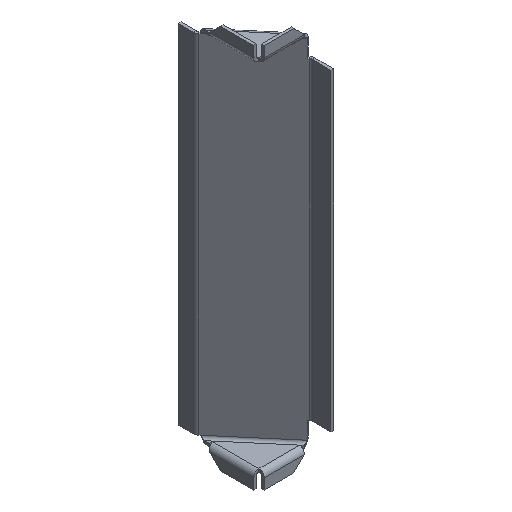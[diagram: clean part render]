
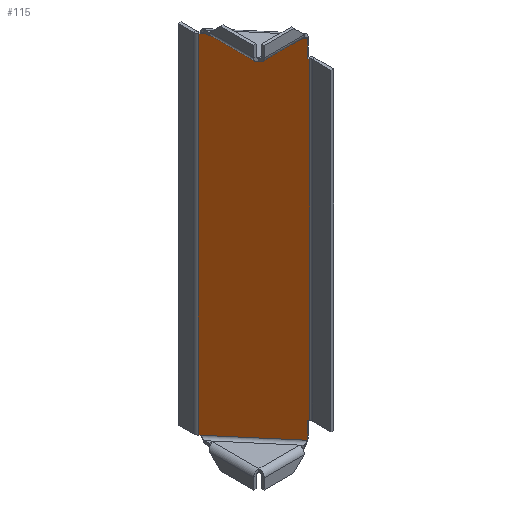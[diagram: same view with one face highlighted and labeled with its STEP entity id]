
A CAD part, isometric view. The second image highlights one B-rep face of the part: STEP entity #115.
In plain terms, the highlighted planar face has unit normal (-0.761, -0.648, 0).
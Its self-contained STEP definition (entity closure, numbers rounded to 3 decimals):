
#23 = EDGE_CURVE ( 'NONE', #2062, #2063, #2485, .T. ) ;
#28 = EDGE_CURVE ( 'NONE', #2066, #2065, #2487, .T. ) ;
#36 = EDGE_CURVE ( 'NONE', #2051, #2064, #2494, .T. ) ;
#41 = EDGE_CURVE ( 'NONE', #2063, #2069, #2498, .T. ) ;
#43 = EDGE_CURVE ( 'NONE', #2066, #2067, #2500, .T. ) ;
#51 = EDGE_CURVE ( 'NONE', #2067, #2068, #2507, .T. ) ;
#52 = EDGE_CURVE ( 'NONE', #2069, #2068, #2508, .T. ) ;
#67 = EDGE_CURVE ( 'NONE', #2042, #2051, #2522, .T. ) ;
#68 = EDGE_CURVE ( 'NONE', #2062, #2042, #2523, .T. ) ;
#69 = EDGE_CURVE ( 'NONE', #2065, #2064, #2524, .T. ) ;
#115 = ADVANCED_FACE ( 'NONE', ( #540 ), #1094, .T. ) ;
#265 = VECTOR ( 'NONE', #701, 1000. ) ;
#266 = VECTOR ( 'NONE', #699, 1000. ) ;
#275 = VECTOR ( 'NONE', #718, 1000. ) ;
#281 = VECTOR ( 'NONE', #729, 1000. ) ;
#284 = VECTOR ( 'NONE', #733, 1000. ) ;
#292 = VECTOR ( 'NONE', #750, 1000. ) ;
#293 = VECTOR ( 'NONE', #752, 1000. ) ;
#310 = VECTOR ( 'NONE', #783, 1000. ) ;
#311 = VECTOR ( 'NONE', #785, 1000. ) ;
#312 = VECTOR ( 'NONE', #787, 1000. ) ;
#356 = AXIS2_PLACEMENT_3D ( 'NONE', #1095, #1096, #1097 ) ;
#540 = FACE_OUTER_BOUND ( 'NONE', #2410, .T. ) ;
#698 = CARTESIAN_POINT ( 'NONE',  ( -1.125, 16.322, 119. ) ) ;
#699 = DIRECTION ( 'NONE',  ( 0., 0., -1. ) ) ;
#700 = CARTESIAN_POINT ( 'NONE',  ( 0., 15., -131. ) ) ;
#701 = DIRECTION ( 'NONE',  ( -0.648, 0.762, 0. ) ) ;
#717 = CARTESIAN_POINT ( 'NONE',  ( -39.046, 60.879, 131. ) ) ;
#718 = DIRECTION ( 'NONE',  ( 0., 0., -1. ) ) ;
#728 = CARTESIAN_POINT ( 'NONE',  ( -1.125, 16.322, 118. ) ) ;
#729 = DIRECTION ( 'NONE',  ( 0.648, -0.762, 0. ) ) ;
#732 = CARTESIAN_POINT ( 'NONE',  ( -1.125, 16.322, -119. ) ) ;
#733 = DIRECTION ( 'NONE',  ( 0., 0., 1. ) ) ;
#749 = CARTESIAN_POINT ( 'NONE',  ( -1.125, 16.322, -118. ) ) ;
#750 = DIRECTION ( 'NONE',  ( 0.648, -0.762, 0. ) ) ;
#751 = CARTESIAN_POINT ( 'NONE',  ( -0.477, 15.56, 118. ) ) ;
#752 = DIRECTION ( 'NONE',  ( 0., 0., -1. ) ) ;
#782 = CARTESIAN_POINT ( 'NONE',  ( 0., 15., 131. ) ) ;
#783 = DIRECTION ( 'NONE',  ( -0.648, 0.762, 0. ) ) ;
#784 = CARTESIAN_POINT ( 'NONE',  ( 0., 15., 131. ) ) ;
#785 = DIRECTION ( 'NONE',  ( -0.648, 0.762, 0. ) ) ;
#786 = CARTESIAN_POINT ( 'NONE',  ( 0., 15., -131. ) ) ;
#787 = DIRECTION ( 'NONE',  ( -0.648, 0.762, 0. ) ) ;
#1094 = PLANE ( 'NONE',  #356 ) ;
#1095 = CARTESIAN_POINT ( 'NONE',  ( 0., 15., 135. ) ) ;
#1096 = DIRECTION ( 'NONE',  ( -0.762, -0.648, 0. ) ) ;
#1097 = DIRECTION ( 'NONE',  ( 0.648, -0.762, 0. ) ) ;
#1802 = CARTESIAN_POINT ( 'NONE',  ( -38.398, 60.118, 131. ) ) ;
#1811 = CARTESIAN_POINT ( 'NONE',  ( -39.046, 60.879, 131. ) ) ;
#1822 = CARTESIAN_POINT ( 'NONE',  ( -1.125, 16.322, 131. ) ) ;
#1823 = CARTESIAN_POINT ( 'NONE',  ( -1.125, 16.322, 118. ) ) ;
#1824 = CARTESIAN_POINT ( 'NONE',  ( -39.046, 60.879, -131. ) ) ;
#1825 = CARTESIAN_POINT ( 'NONE',  ( -38.398, 60.118, -131. ) ) ;
#1826 = CARTESIAN_POINT ( 'NONE',  ( -1.125, 16.322, -131. ) ) ;
#1827 = CARTESIAN_POINT ( 'NONE',  ( -1.125, 16.322, -118. ) ) ;
#1828 = CARTESIAN_POINT ( 'NONE',  ( -0.477, 15.56, -118. ) ) ;
#1829 = CARTESIAN_POINT ( 'NONE',  ( -0.477, 15.56, 118. ) ) ;
#1970 = ORIENTED_EDGE ( 'NONE', *, *, #28, .F. ) ;
#1973 = ORIENTED_EDGE ( 'NONE', *, *, #67, .T. ) ;
#1977 = ORIENTED_EDGE ( 'NONE', *, *, #68, .T. ) ;
#1981 = ORIENTED_EDGE ( 'NONE', *, *, #23, .F. ) ;
#1995 = ORIENTED_EDGE ( 'NONE', *, *, #51, .T. ) ;
#1998 = ORIENTED_EDGE ( 'NONE', *, *, #69, .F. ) ;
#2004 = ORIENTED_EDGE ( 'NONE', *, *, #36, .T. ) ;
#2014 = ORIENTED_EDGE ( 'NONE', *, *, #41, .F. ) ;
#2025 = ORIENTED_EDGE ( 'NONE', *, *, #43, .T. ) ;
#2034 = ORIENTED_EDGE ( 'NONE', *, *, #52, .F. ) ;
#2042 = VERTEX_POINT ( 'NONE', #1802 ) ;
#2051 = VERTEX_POINT ( 'NONE', #1811 ) ;
#2062 = VERTEX_POINT ( 'NONE', #1822 ) ;
#2063 = VERTEX_POINT ( 'NONE', #1823 ) ;
#2064 = VERTEX_POINT ( 'NONE', #1824 ) ;
#2065 = VERTEX_POINT ( 'NONE', #1825 ) ;
#2066 = VERTEX_POINT ( 'NONE', #1826 ) ;
#2067 = VERTEX_POINT ( 'NONE', #1827 ) ;
#2068 = VERTEX_POINT ( 'NONE', #1828 ) ;
#2069 = VERTEX_POINT ( 'NONE', #1829 ) ;
#2410 = EDGE_LOOP ( 'NONE', ( #1981, #1977, #1973, #2004, #1998, #1970, #2025, #1995, #2034, #2014 ) ) ;
#2485 = LINE ( 'NONE', #698, #266 ) ;
#2487 = LINE ( 'NONE', #700, #265 ) ;
#2494 = LINE ( 'NONE', #717, #275 ) ;
#2498 = LINE ( 'NONE', #728, #281 ) ;
#2500 = LINE ( 'NONE', #732, #284 ) ;
#2507 = LINE ( 'NONE', #749, #292 ) ;
#2508 = LINE ( 'NONE', #751, #293 ) ;
#2522 = LINE ( 'NONE', #782, #310 ) ;
#2523 = LINE ( 'NONE', #784, #311 ) ;
#2524 = LINE ( 'NONE', #786, #312 ) ;
